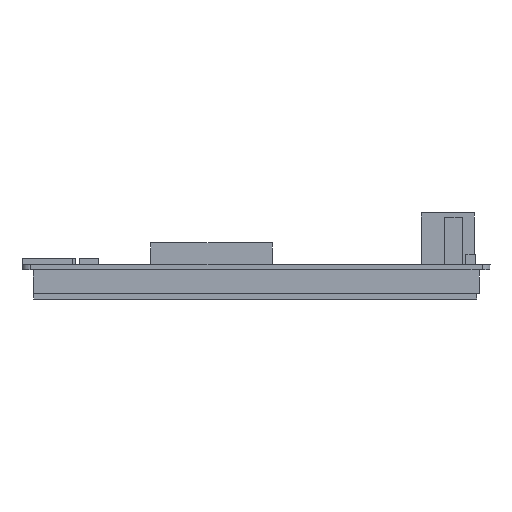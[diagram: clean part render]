
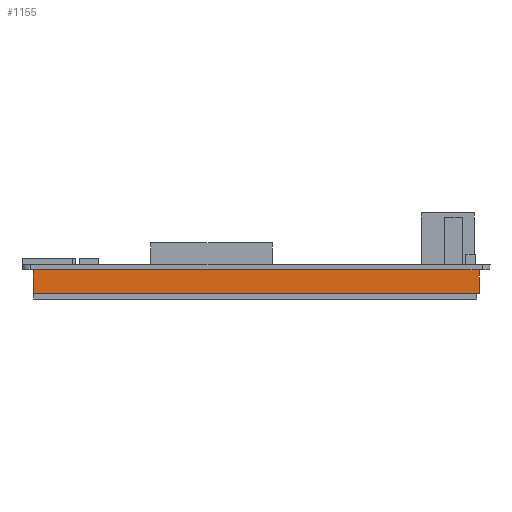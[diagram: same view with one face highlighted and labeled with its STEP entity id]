
A CAD part, left-side view. The second image highlights one B-rep face of the part: STEP entity #1155.
In plain terms, the highlighted planar face has unit normal (-1, 0, 0).
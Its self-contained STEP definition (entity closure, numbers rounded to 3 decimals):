
#20 = VERTEX_POINT ( 'NONE', #3317 ) ;
#31 = CARTESIAN_POINT ( 'NONE',  ( 2144.802, 0., -1.6 ) ) ;
#87 = CARTESIAN_POINT ( 'NONE',  ( 2144.802, 2153.965, -9.1 ) ) ;
#202 = CARTESIAN_POINT ( 'NONE',  ( 2144.802, 2213.661, -1.6 ) ) ;
#232 = CARTESIAN_POINT ( 'NONE',  ( 2144.802, 0., -1.6 ) ) ;
#385 = CARTESIAN_POINT ( 'NONE',  ( 2144.802, 0., -1.6 ) ) ;
#441 = CARTESIAN_POINT ( 'NONE',  ( 2144.802, 2275.637, -1.6 ) ) ;
#545 = DIRECTION ( 'NONE',  ( 0., 1., 0. ) ) ;
#652 = CARTESIAN_POINT ( 'NONE',  ( 2144.802, 0., -1.6 ) ) ;
#809 = LINE ( 'NONE', #232, #5504 ) ;
#906 = ORIENTED_EDGE ( 'NONE', *, *, #3724, .T. ) ;
#938 = VECTOR ( 'NONE', #2301, 1000. ) ;
#1013 = VECTOR ( 'NONE', #3577, 1000. ) ;
#1018 = CARTESIAN_POINT ( 'NONE',  ( 2144.802, 2280.717, -1.6 ) ) ;
#1146 = CARTESIAN_POINT ( 'NONE',  ( 2144.802, 2218.741, -1.6 ) ) ;
#1155 = ADVANCED_FACE ( 'NONE', ( #4941 ), #2838, .T. ) ;
#1161 = CARTESIAN_POINT ( 'NONE',  ( 2144.802, 2295.965, -9.1 ) ) ;
#1218 = CARTESIAN_POINT ( 'NONE',  ( 2144.802, 2295.965, -1.6 ) ) ;
#1384 = LINE ( 'NONE', #3378, #3547 ) ;
#1398 = CARTESIAN_POINT ( 'NONE',  ( 2144.802, 2295.965, -1.6 ) ) ;
#1758 = AXIS2_PLACEMENT_3D ( 'NONE', #1918, #5119, #2394 ) ;
#1873 = CARTESIAN_POINT ( 'NONE',  ( 2144.802, 0., -1.6 ) ) ;
#1918 = CARTESIAN_POINT ( 'NONE',  ( 2144.802, 2153.965, -1.6 ) ) ;
#2133 = EDGE_CURVE ( 'NONE', #3418, #20, #2539, .T. ) ;
#2193 = ORIENTED_EDGE ( 'NONE', *, *, #5362, .T. ) ;
#2301 = DIRECTION ( 'NONE',  ( 0., -1., 0. ) ) ;
#2343 = DIRECTION ( 'NONE',  ( 0., 1., 0. ) ) ;
#2376 = VECTOR ( 'NONE', #5669, 1000. ) ;
#2394 = DIRECTION ( 'NONE',  ( 0., 0., 1. ) ) ;
#2398 = ORIENTED_EDGE ( 'NONE', *, *, #4566, .F. ) ;
#2399 = LINE ( 'NONE', #1873, #4684 ) ;
#2417 = EDGE_CURVE ( 'NONE', #4318, #3122, #1384, .T. ) ;
#2418 = ORIENTED_EDGE ( 'NONE', *, *, #4612, .T. ) ;
#2512 = DIRECTION ( 'NONE',  ( 0., 1., 0. ) ) ;
#2539 = LINE ( 'NONE', #652, #2376 ) ;
#2838 = PLANE ( 'NONE',  #1758 ) ;
#2939 = EDGE_CURVE ( 'NONE', #20, #3416, #809, .T. ) ;
#2967 = ORIENTED_EDGE ( 'NONE', *, *, #2939, .T. ) ;
#3122 = VERTEX_POINT ( 'NONE', #441 ) ;
#3168 = LINE ( 'NONE', #385, #1013 ) ;
#3211 = EDGE_CURVE ( 'NONE', #5724, #3835, #3470, .T. ) ;
#3317 = CARTESIAN_POINT ( 'NONE',  ( 2144.802, 2174.291, -1.6 ) ) ;
#3378 = CARTESIAN_POINT ( 'NONE',  ( 2144.802, 0., -1.6 ) ) ;
#3408 = CARTESIAN_POINT ( 'NONE',  ( 2144.802, 2169.211, -1.6 ) ) ;
#3416 = VERTEX_POINT ( 'NONE', #202 ) ;
#3418 = VERTEX_POINT ( 'NONE', #3408 ) ;
#3470 = LINE ( 'NONE', #4623, #4649 ) ;
#3478 = ORIENTED_EDGE ( 'NONE', *, *, #3211, .F. ) ;
#3482 = CARTESIAN_POINT ( 'NONE',  ( 2144.802, 2153.965, -1.6 ) ) ;
#3547 = VECTOR ( 'NONE', #3822, 1000. ) ;
#3577 = DIRECTION ( 'NONE',  ( 0., 1., 0. ) ) ;
#3643 = VECTOR ( 'NONE', #545, 1000. ) ;
#3679 = DIRECTION ( 'NONE',  ( 0., 1., 0. ) ) ;
#3724 = EDGE_CURVE ( 'NONE', #3416, #4318, #5292, .T. ) ;
#3822 = DIRECTION ( 'NONE',  ( 0., 1., 0. ) ) ;
#3835 = VERTEX_POINT ( 'NONE', #87 ) ;
#3841 = EDGE_CURVE ( 'NONE', #3122, #5505, #4859, .T. ) ;
#4031 = VERTEX_POINT ( 'NONE', #1161 ) ;
#4072 = VECTOR ( 'NONE', #3679, 1000. ) ;
#4210 = ORIENTED_EDGE ( 'NONE', *, *, #2417, .T. ) ;
#4318 = VERTEX_POINT ( 'NONE', #1146 ) ;
#4442 = LINE ( 'NONE', #5026, #938 ) ;
#4566 = EDGE_CURVE ( 'NONE', #4031, #5920, #4833, .T. ) ;
#4599 = ORIENTED_EDGE ( 'NONE', *, *, #3841, .T. ) ;
#4612 = EDGE_CURVE ( 'NONE', #5724, #3418, #2399, .T. ) ;
#4623 = CARTESIAN_POINT ( 'NONE',  ( 2144.802, 2153.965, -1.6 ) ) ;
#4649 = VECTOR ( 'NONE', #5058, 1000. ) ;
#4684 = VECTOR ( 'NONE', #2343, 1000. ) ;
#4833 = LINE ( 'NONE', #1398, #5921 ) ;
#4859 = LINE ( 'NONE', #5554, #3643 ) ;
#4936 = EDGE_CURVE ( 'NONE', #5505, #5920, #3168, .T. ) ;
#4941 = FACE_OUTER_BOUND ( 'NONE', #5359, .T. ) ;
#5026 = CARTESIAN_POINT ( 'NONE',  ( 2144.802, 2153.965, -9.1 ) ) ;
#5056 = DIRECTION ( 'NONE',  ( 0., 0., 1. ) ) ;
#5058 = DIRECTION ( 'NONE',  ( 0., 0., -1. ) ) ;
#5119 = DIRECTION ( 'NONE',  ( -1., 0., 0. ) ) ;
#5155 = ORIENTED_EDGE ( 'NONE', *, *, #2133, .T. ) ;
#5212 = ORIENTED_EDGE ( 'NONE', *, *, #4936, .T. ) ;
#5292 = LINE ( 'NONE', #31, #4072 ) ;
#5359 = EDGE_LOOP ( 'NONE', ( #3478, #2418, #5155, #2967, #906, #4210, #4599, #5212, #2398, #2193 ) ) ;
#5362 = EDGE_CURVE ( 'NONE', #4031, #3835, #4442, .T. ) ;
#5504 = VECTOR ( 'NONE', #2512, 1000. ) ;
#5505 = VERTEX_POINT ( 'NONE', #1018 ) ;
#5554 = CARTESIAN_POINT ( 'NONE',  ( 2144.802, 0., -1.6 ) ) ;
#5669 = DIRECTION ( 'NONE',  ( 0., 1., 0. ) ) ;
#5724 = VERTEX_POINT ( 'NONE', #3482 ) ;
#5920 = VERTEX_POINT ( 'NONE', #1218 ) ;
#5921 = VECTOR ( 'NONE', #5056, 1000. ) ;
